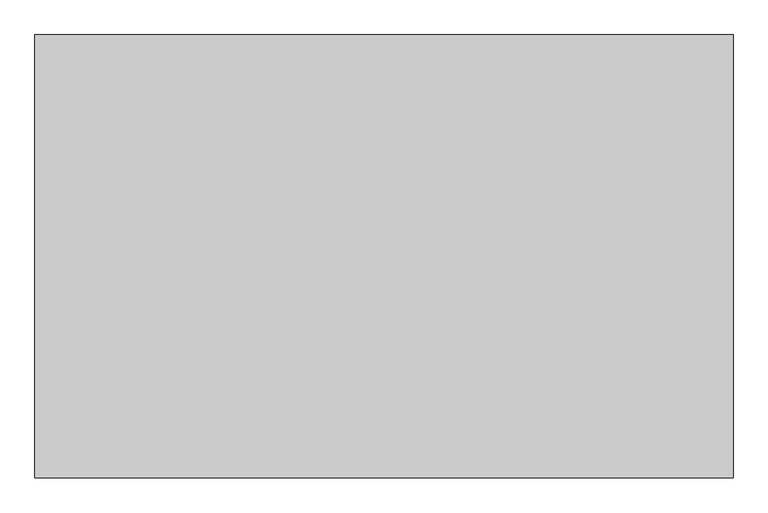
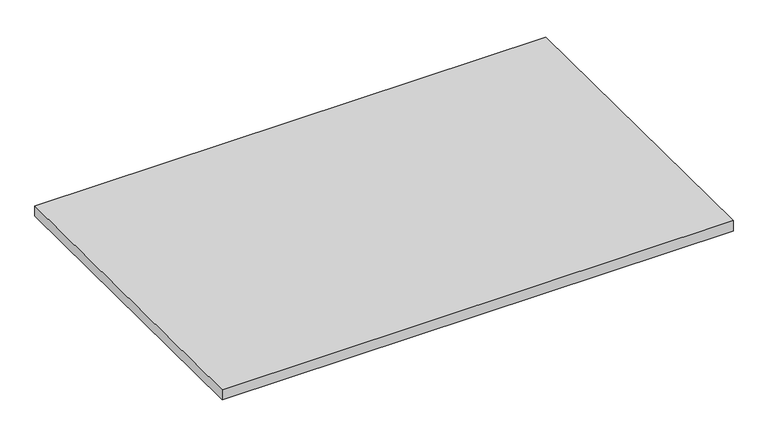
"""IFC4 building model written with IfcOpenShell, lengths in millimetres: proxy geometry, lastra tralicciata_inclinata_senza alleggerimenti : lastra tralicciata_inclinata_due_rompitratta."""

from ifc_helpers import new_model, si_unit, frame, origin, place, context, project, spatial, polyline, outline, extrude, source, transform, mapped, element, save


def generic_models_38589909(model_context):
    return source(origin(), model_context, "Body", "SweptSolid", [
        extrude(outline(polyline([(0.0, -1200.0), (0.0, 0.0), (1890.0, 0.0), (1890.0, -1200.0), (0.0, -1200.0)])), frame((0.0, 599.9853784, -4.1887562), z_axis=(0.0, 0.006981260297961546, 0.9999756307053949), x_axis=(1.0, 0.0, 0.0)), (0.0, 0.0, 1.0), 40.0),
    ])


if __name__ == "__main__":
    model = new_model("IFC4")
    model_context = context("Model", 3, world=origin())
    ifc_project = project(units=[si_unit("LENGTHUNIT", "METRE", prefix="MILLI")], contexts=[model_context])
    site = spatial("IfcSite", under=ifc_project)
    building = spatial("IfcBuilding", under=site)
    placement = place(None, origin())
    generic_models_shape = generic_models_38589909(model_context)
    element("IfcBuildingElementProxy", 1, Name="lastra tralicciata_inclinata_senza alleggerimenti : lastra tralicciata_inclinata_due_rompitratta", ObjectType="lastra tralicciata_inclinata_senza alleggerimenti : lastra tralicciata_inclinata_due_rompitratta", at=placement, inside=building, context=model_context, shape_type="MappedRepresentation", body=[
        mapped(generic_models_shape, transform((0.0, 0.0, 0.0), x_axis=(1.0, 0.0, 0.0), y_axis=(0.0, 1.0, 0.0), z_axis=(0.0, 0.0, 1.0))),
    ])
    save(model, "model.ifc")
